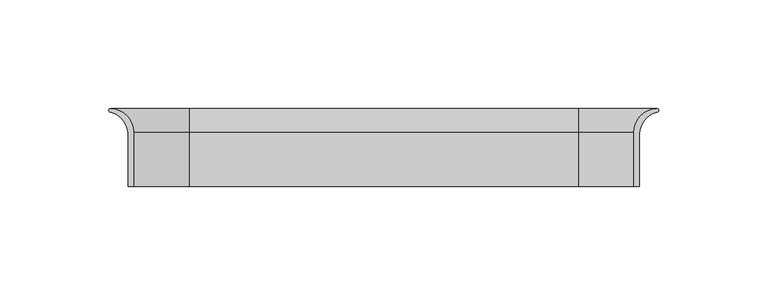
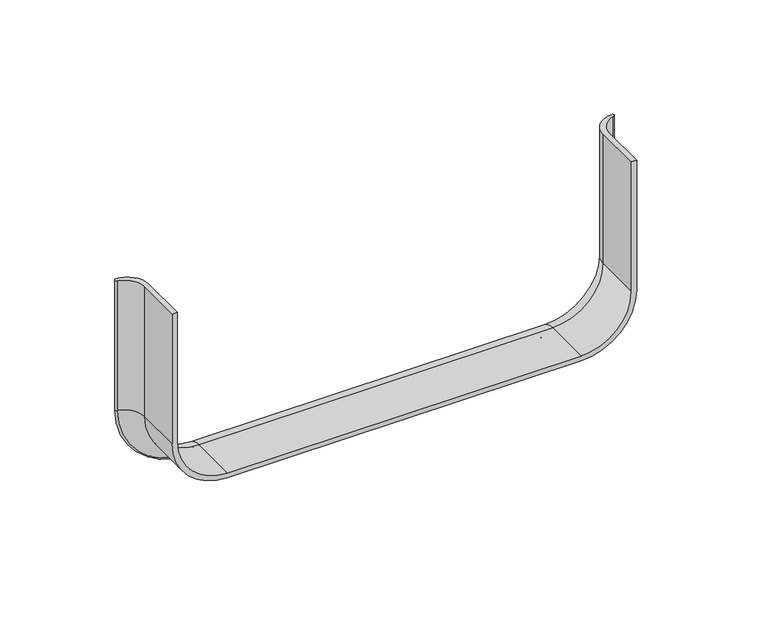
"""IFC4 building model written with IfcOpenShell, lengths in millimetres: cable carrier fitting geometry, CCT_Hyperline_FBTR-TSP Раструб для оптического лотка : Раструб для оптического лотка."""

from ifc_helpers import new_model, si_unit, point, frame, origin, place, context, project, spatial, polyline, circle_curve, ellipse_curve, trimmed, source, transform, mapped, element, save
from ifc_brep_helpers import plane_surface, cylinder_surface, revolved_surface, advanced_brep


def cable_carrier_fitting_23931724(model_context):
    return source(origin(), model_context, "Body", "AdvancedBrep", [
        advanced_brep(
        [(-117.46, 4.416055, 50.0), (-117.46, -19.5, 50.0), (-114.8920157, -19.5, 50.0), (-114.8920157, 5.5, 50.0), (-125.4986174, 16.1066017, 50.0), (-125.4986174, 14.6066017, 50.0), (-117.46, 4.416055, -19.46), (-117.46, -19.5, -19.46), (-89.46, -19.5, -47.46), (89.46, -19.5, -47.46), (117.46, -19.5, -19.46), (117.46, -19.5, 50.0), (114.8920157, -19.5, 50.0), (114.8920157, -19.5, -19.46), (89.46, -19.5, -44.8920157), (-89.46, -19.5, -44.8920157), (-114.8920157, -19.5, -19.46), (-89.46, 4.416055, -47.46), (89.46, 4.416055, -47.46), (117.46, 4.416055, -19.46), (117.46, 4.416055, 50.0), (125.4986174, 14.6066017, 50.0), (125.4986174, 16.1066017, 50.0), (114.8920157, 5.5, 50.0), (-114.8920157, 5.5, -19.46), (-125.4986174, 16.1066017, -19.46), (-125.4986174, 14.6066017, -19.46), (-89.46, 16.1066017, -55.4986174), (-89.46, 5.5, -44.8920157), (-89.46, 14.6066017, -55.4986174), (89.46, 5.5, -44.8920157), (89.46, 16.1066017, -55.4986174), (89.46, 14.6066017, -55.4986174), (125.4986174, 16.1066017, -19.46), (114.8920157, 5.5, -19.46), (125.4986174, 14.6066017, -19.46)],
        [
            (0, 1),
            (1, 2),
            (2, 3),
            (3, 4, circle_curve(frame((-125.4986174, 5.5, 50.0), z_axis=(0.0, 0.0, 1.0), x_axis=(0.0, -1.0, 0.0)), 10.6066017)),
            (4, 5, circle_curve(frame((-125.4986174, 15.3566017, 50.0), z_axis=(0.0, 0.0, 1.0), x_axis=(0.0, -1.0, 0.0)), 0.75)),
            (5, 0, circle_curve(frame((-127.9385814, 4.416055, 50.0), z_axis=(0.0, 0.0, -1.0), x_axis=(0.0, -1.0, 0.0)), 10.4785814)),
            (0, 6),
            (6, 7),
            (7, 1),
            (7, 8, circle_curve(frame((-89.46, -19.5, -19.46), z_axis=(0.0, -1.0, 0.0), x_axis=(-1.0, 0.0, 0.0)), 28.0)),
            (8, 9),
            (9, 10, circle_curve(frame((89.46, -19.5, -19.46), z_axis=(0.0, -1.0, 0.0), x_axis=(0.0, 0.0, -1.0)), 28.0)),
            (10, 11),
            (11, 12),
            (12, 13),
            (13, 14, circle_curve(frame((89.46, -19.5, -19.46), z_axis=(0.0, 1.0, 0.0), x_axis=(0.0, 0.0, -1.0)), 25.4320156)),
            (14, 15),
            (15, 16, circle_curve(frame((-89.46, -19.5, -19.46), z_axis=(0.0, 1.0, 0.0), x_axis=(-1.0, 0.0, 0.0)), 25.4320156)),
            (16, 2),
            (6, 17, circle_curve(frame((-89.46, 4.416055, -19.46), z_axis=(0.0, -1.0, 0.0), x_axis=(-1.0, 0.0, 0.0)), 28.0)),
            (17, 8),
            (17, 18),
            (18, 9),
            (18, 19, circle_curve(frame((89.46, 4.416055, -19.46), z_axis=(0.0, -1.0, 0.0), x_axis=(0.0, 0.0, -1.0)), 28.0)),
            (19, 10),
            (20, 21, circle_curve(frame((127.9385814, 4.416055, 50.0), z_axis=(0.0, 0.0, -1.0), x_axis=(0.0, -1.0, 0.0)), 10.4785814)),
            (21, 22, circle_curve(frame((125.4986174, 15.3566017, 50.0), z_axis=(0.0, 0.0, 1.0), x_axis=(0.0, -1.0, 0.0)), 0.75)),
            (22, 23, circle_curve(frame((125.4986174, 5.5, 50.0), z_axis=(0.0, 0.0, 1.0), x_axis=(0.0, -1.0, 0.0)), 10.6066017)),
            (23, 12),
            (11, 20),
            (19, 20),
            (3, 24),
            (24, 25, circle_curve(frame((-125.4986174, 5.5, -19.46), z_axis=(0.0, 0.0, 1.0), x_axis=(0.0, -1.0, 0.0)), 10.6066017)),
            (25, 4),
            (25, 26, circle_curve(frame((-125.4986174, 15.3566017, -19.46), z_axis=(0.0, 0.0, 1.0), x_axis=(0.0, -1.0, 0.0)), 0.75)),
            (26, 5),
            (26, 6, circle_curve(frame((-127.9385814, 4.416055, -19.46), z_axis=(0.0, 0.0, -1.0), x_axis=(0.0, -1.0, 0.0)), 10.4785814)),
            (27, 25, circle_curve(frame((-89.46, 16.1066017, -19.46), z_axis=(0.0, 1.0, 0.0), x_axis=(-1.0, 0.0, 0.0)), 36.0386174)),
            (24, 28, circle_curve(frame((-89.46, 5.5, -19.46), z_axis=(0.0, -1.0, 0.0), x_axis=(-1.0, 0.0, 0.0)), 25.4320156)),
            (28, 27, circle_curve(frame((-89.46, 5.5, -55.4986174), z_axis=(-1.0, 0.0, 0.0), x_axis=(0.0, -1.0, 0.0)), 10.6066017)),
            (29, 26, circle_curve(frame((-89.46, 14.6066017, -19.46), z_axis=(0.0, 1.0, 0.0), x_axis=(-1.0, 0.0, 0.0)), 36.0386174)),
            (27, 29, circle_curve(frame((-89.46, 15.3566017, -55.4986174), z_axis=(-1.0, 0.0, 0.0), x_axis=(0.0, -1.0, 0.0)), 0.75)),
            (29, 17, circle_curve(frame((-89.46, 4.416055, -57.9385814), z_axis=(1.0, 0.0, 0.0), x_axis=(0.0, -1.0, 0.0)), 10.4785814)),
            (28, 30),
            (30, 31, circle_curve(frame((89.46, 5.5, -55.4986174), z_axis=(-1.0, 0.0, 0.0), x_axis=(0.0, -1.0, 0.0)), 10.6066017)),
            (31, 27),
            (31, 32, circle_curve(frame((89.46, 15.3566017, -55.4986174), z_axis=(-1.0, 0.0, 0.0), x_axis=(0.0, -1.0, 0.0)), 0.75)),
            (32, 29),
            (32, 18, circle_curve(frame((89.46, 4.416055, -57.9385814), z_axis=(1.0, 0.0, 0.0), x_axis=(0.0, -1.0, 0.0)), 10.4785814)),
            (33, 31, circle_curve(frame((89.46, 16.1066017, -19.46), z_axis=(0.0, 1.0, 0.0), x_axis=(0.0, 0.0, -1.0)), 36.0386174)),
            (30, 34, circle_curve(frame((89.46, 5.5, -19.46), z_axis=(0.0, -1.0, 0.0), x_axis=(0.0, 0.0, -1.0)), 25.4320156)),
            (34, 33, circle_curve(frame((125.4986174, 5.5, -19.46), z_axis=(0.0, 0.0, -1.0), x_axis=(0.0, -1.0, 0.0)), 10.6066017)),
            (35, 32, circle_curve(frame((89.46, 14.6066017, -19.46), z_axis=(0.0, 1.0, 0.0), x_axis=(0.0, 0.0, -1.0)), 36.0386174)),
            (33, 35, circle_curve(frame((125.4986174, 15.3566017, -19.46), z_axis=(0.0, 0.0, -1.0), x_axis=(0.0, -1.0, 0.0)), 0.75)),
            (35, 19, circle_curve(frame((127.9385814, 4.416055, -19.46), z_axis=(0.0, 0.0, 1.0), x_axis=(0.0, -1.0, 0.0)), 10.4785814)),
            (34, 23),
            (22, 33),
            (21, 35),
            (16, 24),
            (15, 28),
            (14, 30),
            (13, 34),
        ],
        [
            plane_surface(frame((-117.46, 0.5, 50.0), z_axis=(0.0, 0.0, 1.0), x_axis=(0.0, -1.0, 0.0))),
            plane_surface(frame((-117.46, 4.416055, 50.0), z_axis=(-1.0, 0.0, 0.0), x_axis=(0.0, 0.0, -1.0))),
            plane_surface(frame((-117.46, -19.5, 50.0), z_axis=(0.0, -1.0, 0.0), x_axis=(0.0, 0.0, -1.0))),
            cylinder_surface(frame((-89.46, 0.5, -19.46), z_axis=(0.0, -1.0, 0.0), x_axis=(-1.0, 0.0, 0.0)), 28.0),
            plane_surface(frame((-89.46, 4.416055, -47.46), z_axis=(0.0, 0.0, -1.0), x_axis=(1.0, 0.0, 0.0))),
            cylinder_surface(frame((89.46, 0.5, -19.46), z_axis=(0.0, -1.0, 0.0), x_axis=(0.0, 0.0, -1.0)), 28.0),
            plane_surface(frame((117.46, 0.5, 50.0), z_axis=(0.0, 0.0, 1.0), x_axis=(0.0, -1.0, 0.0))),
            plane_surface(frame((117.46, 4.416055, -19.46), z_axis=(1.0, 0.0, 0.0), x_axis=(0.0, 0.0, 1.0))),
            cylinder_surface(frame((-125.4986174, 5.5, 50.0), z_axis=(0.0, 0.0, 1.0), x_axis=(0.0, -1.0, 0.0)), 10.6066017),
            cylinder_surface(frame((-125.4986174, 15.3566017, 50.0), z_axis=(0.0, 0.0, 1.0), x_axis=(0.0, -1.0, 0.0)), 0.75),
            revolved_surface(polyline([(-127.9385814, -6.062526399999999, -19.460000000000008), (-127.9385814, -6.062526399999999, 50.0)]), (-127.9385814, 4.416055, 50.0), (0.0, 0.0, -1.0)),
            revolved_surface(trimmed(ellipse_curve(frame((-125.4986174, 5.5, -19.46), z_axis=(0.0, 0.0, 1.0), x_axis=(0.0, -1.0, 0.0)), 10.6066017, 10.6066017), [point((-114.8920157, 5.5, -19.46))], [point((-125.4986174, 16.1066017, -19.46))], True, "CARTESIAN"), (-89.46, 0.5, -19.46), (0.0, -1.0, 0.0)),
            revolved_surface(trimmed(ellipse_curve(frame((-125.4986174, 15.3566017, -19.46), z_axis=(0.0, 0.0, 1.0), x_axis=(0.0, -1.0, 0.0)), 0.75, 0.75), [point((-125.4986174, 16.1066017, -19.46))], [point((-125.4986174, 14.6066017, -19.46))], True, "CARTESIAN"), (-89.46, 0.5, -19.46), (0.0, -1.0, 0.0)),
            revolved_surface(trimmed(ellipse_curve(frame((-127.9385814, 4.416055, -19.46), z_axis=(0.0, 0.0, -1.0), x_axis=(0.0, -1.0, 0.0)), 10.4785814, 10.4785814), [point((-125.4986174, 14.6066017, -19.46))], [point((-117.46, 4.416055, -19.46))], True, "CARTESIAN"), (-89.46, 0.5, -19.46), (0.0, -1.0, 0.0)),
            cylinder_surface(frame((-89.46, 5.5, -55.4986174), z_axis=(-1.0, 0.0, 0.0), x_axis=(0.0, -1.0, 0.0)), 10.6066017),
            cylinder_surface(frame((-89.46, 15.3566017, -55.4986174), z_axis=(-1.0, 0.0, 0.0), x_axis=(0.0, -1.0, 0.0)), 0.75),
            revolved_surface(polyline([(89.46, -6.062526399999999, -57.9385814), (-89.46, -6.062526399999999, -57.9385814)]), (-89.46, 4.416055, -57.9385814), (1.0, 0.0, 0.0)),
            revolved_surface(trimmed(ellipse_curve(frame((89.46, 5.5, -55.4986174), z_axis=(-1.0, 0.0, 0.0), x_axis=(0.0, -1.0, 0.0)), 10.6066017, 10.6066017), [point((89.46, 5.5, -44.8920157))], [point((89.46, 16.1066017, -55.4986174))], True, "CARTESIAN"), (89.46, 0.5, -19.46), (0.0, -1.0, 0.0)),
            revolved_surface(trimmed(ellipse_curve(frame((89.46, 15.3566017, -55.4986174), z_axis=(-1.0, 0.0, 0.0), x_axis=(0.0, -1.0, 0.0)), 0.75, 0.75), [point((89.46, 16.1066017, -55.4986174))], [point((89.46, 14.6066017, -55.4986174))], True, "CARTESIAN"), (89.46, 0.5, -19.46), (0.0, -1.0, 0.0)),
            revolved_surface(trimmed(ellipse_curve(frame((89.46, 4.416055, -57.9385814), z_axis=(1.0, 0.0, 0.0), x_axis=(0.0, -1.0, 0.0)), 10.4785814, 10.4785814), [point((89.46, 14.6066017, -55.4986174))], [point((89.46, 4.416055, -47.46))], True, "CARTESIAN"), (89.46, 0.5, -19.46), (0.0, -1.0, 0.0)),
            cylinder_surface(frame((125.4986174, 5.5, -19.46), z_axis=(0.0, 0.0, -1.0), x_axis=(0.0, -1.0, 0.0)), 10.6066017),
            cylinder_surface(frame((125.4986174, 15.3566017, -19.46), z_axis=(0.0, 0.0, -1.0), x_axis=(0.0, -1.0, 0.0)), 0.75),
            revolved_surface(polyline([(127.9385814, -6.062526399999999, 50.00000000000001), (127.9385814, -6.062526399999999, -19.46)]), (127.9385814, 4.416055, -19.46), (0.0, 0.0, 1.0)),
            plane_surface(frame((-114.8920157, -19.5, 50.0), z_axis=(1.0, 0.0, 0.0), x_axis=(0.0, 0.0, -1.0))),
            revolved_surface(polyline([(-114.8920156, -19.5, -19.46), (-114.8920156, 5.5, -19.46)]), (-89.46, 0.5, -19.46), (0.0, -1.0, 0.0)),
            plane_surface(frame((-89.46, -19.5, -44.8920157), z_axis=(0.0, 0.0, 1.0), x_axis=(1.0, 0.0, 0.0))),
            revolved_surface(polyline([(89.46, -19.5, -44.8920156), (89.46, 5.5, -44.8920156)]), (89.46, 0.5, -19.46), (0.0, -1.0, 0.0)),
            plane_surface(frame((114.8920157, -19.5, -19.46), z_axis=(-1.0, 0.0, 0.0), x_axis=(0.0, 0.0, 1.0))),
        ],
        [
            (0, [[1, 2, 3, 4, 5, 6]]),
            (1, [[-1, 7, 8, 9]]),
            (2, [[-2, -9, 10, 11, 12, 13, 14, 15, 16, 17, 18, 19]]),
            (3, [[-10, -8, 20, 21]]),
            (4, [[-21, 22, 23, -11]]),
            (5, [[-12, -23, 24, 25]]),
            (6, [[26, 27, 28, 29, -14, 30]]),
            (7, [[-25, 31, -30, -13]]),
            (8, [[-4, 32, 33, 34]]),
            (9, [[-5, -34, 35, 36]]),
            (10, [[-6, -36, 37, -7]]),
            (11, [[38, -33, 39, 40]]),
            (12, [[41, -35, -38, 42]]),
            (13, [[-20, -37, -41, 43]]),
            (14, [[-40, 44, 45, 46]]),
            (15, [[-42, -46, 47, 48]]),
            (16, [[-43, -48, 49, -22]]),
            (17, [[50, -45, 51, 52]]),
            (18, [[53, -47, -50, 54]]),
            (19, [[-24, -49, -53, 55]]),
            (20, [[-52, 56, -28, 57]]),
            (21, [[-54, -57, -27, 58]]),
            (22, [[-55, -58, -26, -31]]),
            (23, [[-3, -19, 59, -32]]),
            (24, [[-39, -59, -18, 60]]),
            (25, [[-60, -17, 61, -44]]),
            (26, [[-51, -61, -16, 62]]),
            (27, [[-62, -15, -29, -56]]),
        ],
    ),
    ])


if __name__ == "__main__":
    model = new_model("IFC4")
    model_context = context("Model", 3, world=origin())
    ifc_project = project(units=[si_unit("LENGTHUNIT", "METRE", prefix="MILLI")], contexts=[model_context])
    site = spatial("IfcSite", under=ifc_project)
    building = spatial("IfcBuilding", under=site)
    placement = place(None, origin())
    cable_carrier_fitting_shape = cable_carrier_fitting_23931724(model_context)
    element("IfcCableCarrierFitting", 1, ObjectType="CCT_Hyperline_FBTR-TSP Раструб для оптического лотка : Раструб для оптического лотка", at=placement, inside=building, context=model_context, shape_type="MappedRepresentation", body=[
        mapped(cable_carrier_fitting_shape, transform((0.0, 0.0, 0.0), x_axis=(1.0, 0.0, 0.0), y_axis=(0.0, 1.0, 0.0), z_axis=(0.0, 0.0, 1.0))),
    ])
    save(model, "model.ifc")
